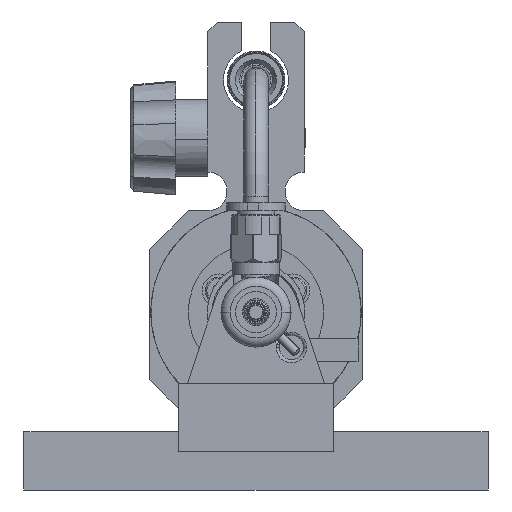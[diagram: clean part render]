
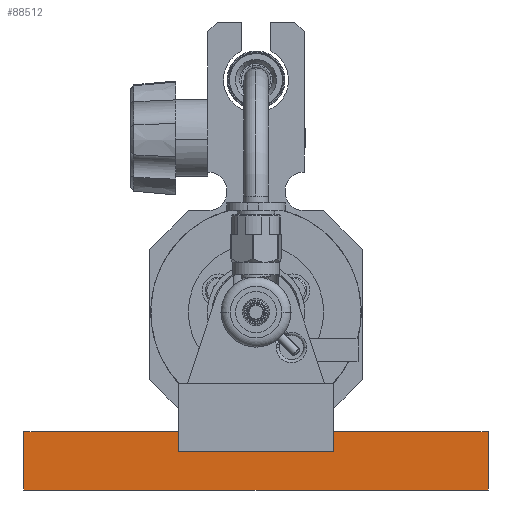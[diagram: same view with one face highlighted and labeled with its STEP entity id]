
A CAD part, front view. The second image highlights one B-rep face of the part: STEP entity #88512.
In plain terms, the highlighted planar face has unit normal (0, -1, 0).
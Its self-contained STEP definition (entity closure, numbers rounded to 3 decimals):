
#69130 = PLANE('',#69131);
#69131 = AXIS2_PLACEMENT_3D('',#69132,#69133,#69134);
#69132 = CARTESIAN_POINT('',(38.1,-17.393,-29.223));
#69133 = DIRECTION('',(0.,0.,-1.));
#69134 = DIRECTION('',(-1.,0.,0.));
#69379 = PLANE('',#69380);
#69380 = AXIS2_PLACEMENT_3D('',#69381,#69382,#69383);
#69381 = CARTESIAN_POINT('',(38.1,-17.393,-19.698));
#69382 = DIRECTION('',(0.,0.,-1.));
#69383 = DIRECTION('',(-1.,0.,0.));
#69615 = PLANE('',#69616);
#69616 = AXIS2_PLACEMENT_3D('',#69617,#69618,#69619);
#69617 = CARTESIAN_POINT('',(38.1,-17.393,-19.698));
#69618 = DIRECTION('',(0.,0.,-1.));
#69619 = DIRECTION('',(-1.,0.,0.));
#88233 = VERTEX_POINT('',#88234);
#88234 = CARTESIAN_POINT('',(38.1,-17.393,-29.223));
#88248 = PLANE('',#88249);
#88249 = AXIS2_PLACEMENT_3D('',#88250,#88251,#88252);
#88250 = CARTESIAN_POINT('',(38.1,-1.518,-29.223));
#88251 = DIRECTION('',(-1.,0.,0.));
#88252 = DIRECTION('',(0.,0.,1.));
#88260 = EDGE_CURVE('',#88233,#88261,#88263,.T.);
#88261 = VERTEX_POINT('',#88262);
#88262 = CARTESIAN_POINT('',(-38.1,-17.393,-29.223));
#88263 = SURFACE_CURVE('',#88264,(#88268,#88275),.PCURVE_S1.);
#88264 = LINE('',#88265,#88266);
#88265 = CARTESIAN_POINT('',(38.1,-17.393,-29.223));
#88266 = VECTOR('',#88267,1.);
#88267 = DIRECTION('',(-1.,0.,0.));
#88268 = PCURVE('',#69130,#88269);
#88269 = DEFINITIONAL_REPRESENTATION('',(#88270),#88274);
#88270 = LINE('',#88271,#88272);
#88271 = CARTESIAN_POINT('',(0.,0.));
#88272 = VECTOR('',#88273,1.);
#88273 = DIRECTION('',(1.,0.));
#88274 = ( GEOMETRIC_REPRESENTATION_CONTEXT(2) 
PARAMETRIC_REPRESENTATION_CONTEXT() REPRESENTATION_CONTEXT('2D SPACE',''
  ) );
#88275 = PCURVE('',#88276,#88281);
#88276 = PLANE('',#88277);
#88277 = AXIS2_PLACEMENT_3D('',#88278,#88279,#88280);
#88278 = CARTESIAN_POINT('',(38.1,-17.393,-29.223));
#88279 = DIRECTION('',(0.,1.,0.));
#88280 = DIRECTION('',(0.,0.,-1.));
#88281 = DEFINITIONAL_REPRESENTATION('',(#88282),#88286);
#88282 = LINE('',#88283,#88284);
#88283 = CARTESIAN_POINT('',(0.,0.));
#88284 = VECTOR('',#88285,1.);
#88285 = DIRECTION('',(0.,1.));
#88286 = ( GEOMETRIC_REPRESENTATION_CONTEXT(2) 
PARAMETRIC_REPRESENTATION_CONTEXT() REPRESENTATION_CONTEXT('2D SPACE',''
  ) );
#88304 = PLANE('',#88305);
#88305 = AXIS2_PLACEMENT_3D('',#88306,#88307,#88308);
#88306 = CARTESIAN_POINT('',(-38.1,-1.518,-29.223));
#88307 = DIRECTION('',(1.,0.,0.));
#88308 = DIRECTION('',(0.,0.,-1.));
#88468 = VERTEX_POINT('',#88469);
#88469 = CARTESIAN_POINT('',(-38.1,-17.393,-19.698));
#88492 = EDGE_CURVE('',#88261,#88468,#88493,.T.);
#88493 = SURFACE_CURVE('',#88494,(#88498,#88505),.PCURVE_S1.);
#88494 = LINE('',#88495,#88496);
#88495 = CARTESIAN_POINT('',(-38.1,-17.393,-29.223));
#88496 = VECTOR('',#88497,1.);
#88497 = DIRECTION('',(0.,0.,1.));
#88498 = PCURVE('',#88304,#88499);
#88499 = DEFINITIONAL_REPRESENTATION('',(#88500),#88504);
#88500 = LINE('',#88501,#88502);
#88501 = CARTESIAN_POINT('',(0.,-15.875));
#88502 = VECTOR('',#88503,1.);
#88503 = DIRECTION('',(-1.,0.));
#88504 = ( GEOMETRIC_REPRESENTATION_CONTEXT(2) 
PARAMETRIC_REPRESENTATION_CONTEXT() REPRESENTATION_CONTEXT('2D SPACE',''
  ) );
#88505 = PCURVE('',#88276,#88506);
#88506 = DEFINITIONAL_REPRESENTATION('',(#88507),#88511);
#88507 = LINE('',#88508,#88509);
#88508 = CARTESIAN_POINT('',(0.,76.2));
#88509 = VECTOR('',#88510,1.);
#88510 = DIRECTION('',(-1.,0.));
#88511 = ( GEOMETRIC_REPRESENTATION_CONTEXT(2) 
PARAMETRIC_REPRESENTATION_CONTEXT() REPRESENTATION_CONTEXT('2D SPACE',''
  ) );
#88512 = ADVANCED_FACE('',(#88513),#88276,.F.);
#88513 = FACE_BOUND('',#88514,.T.);
#88514 = EDGE_LOOP('',(#88515,#88540,#88568,#88589,#88590,#88591));
#88515 = ORIENTED_EDGE('',*,*,#88516,.T.);
#88516 = EDGE_CURVE('',#88517,#88519,#88521,.T.);
#88517 = VERTEX_POINT('',#88518);
#88518 = CARTESIAN_POINT('',(38.1,-17.393,-19.698));
#88519 = VERTEX_POINT('',#88520);
#88520 = CARTESIAN_POINT('',(12.7,-17.393,-19.698));
#88521 = SURFACE_CURVE('',#88522,(#88526,#88533),.PCURVE_S1.);
#88522 = LINE('',#88523,#88524);
#88523 = CARTESIAN_POINT('',(38.1,-17.393,-19.698));
#88524 = VECTOR('',#88525,1.);
#88525 = DIRECTION('',(-1.,0.,0.));
#88526 = PCURVE('',#88276,#88527);
#88527 = DEFINITIONAL_REPRESENTATION('',(#88528),#88532);
#88528 = LINE('',#88529,#88530);
#88529 = CARTESIAN_POINT('',(-9.525,0.));
#88530 = VECTOR('',#88531,1.);
#88531 = DIRECTION('',(0.,1.));
#88532 = ( GEOMETRIC_REPRESENTATION_CONTEXT(2) 
PARAMETRIC_REPRESENTATION_CONTEXT() REPRESENTATION_CONTEXT('2D SPACE',''
  ) );
#88533 = PCURVE('',#69615,#88534);
#88534 = DEFINITIONAL_REPRESENTATION('',(#88535),#88539);
#88535 = LINE('',#88536,#88537);
#88536 = CARTESIAN_POINT('',(0.,0.));
#88537 = VECTOR('',#88538,1.);
#88538 = DIRECTION('',(1.,0.));
#88539 = ( GEOMETRIC_REPRESENTATION_CONTEXT(2) 
PARAMETRIC_REPRESENTATION_CONTEXT() REPRESENTATION_CONTEXT('2D SPACE',''
  ) );
#88540 = ORIENTED_EDGE('',*,*,#88541,.T.);
#88541 = EDGE_CURVE('',#88519,#88542,#88544,.T.);
#88542 = VERTEX_POINT('',#88543);
#88543 = CARTESIAN_POINT('',(-12.7,-17.393,-19.698));
#88544 = SURFACE_CURVE('',#88545,(#88549,#88556),.PCURVE_S1.);
#88545 = LINE('',#88546,#88547);
#88546 = CARTESIAN_POINT('',(-12.7,-17.393,-19.698));
#88547 = VECTOR('',#88548,1.);
#88548 = DIRECTION('',(-1.,0.,0.));
#88549 = PCURVE('',#88276,#88550);
#88550 = DEFINITIONAL_REPRESENTATION('',(#88551),#88555);
#88551 = LINE('',#88552,#88553);
#88552 = CARTESIAN_POINT('',(-9.525,50.8));
#88553 = VECTOR('',#88554,1.);
#88554 = DIRECTION('',(0.,1.));
#88555 = ( GEOMETRIC_REPRESENTATION_CONTEXT(2) 
PARAMETRIC_REPRESENTATION_CONTEXT() REPRESENTATION_CONTEXT('2D SPACE',''
  ) );
#88556 = PCURVE('',#88557,#88562);
#88557 = PLANE('',#88558);
#88558 = AXIS2_PLACEMENT_3D('',#88559,#88560,#88561);
#88559 = CARTESIAN_POINT('',(-12.7,-1.48,-19.698));
#88560 = DIRECTION('',(0.,0.,1.));
#88561 = DIRECTION('',(0.,1.,0.));
#88562 = DEFINITIONAL_REPRESENTATION('',(#88563),#88567);
#88563 = LINE('',#88564,#88565);
#88564 = CARTESIAN_POINT('',(-15.913,0.));
#88565 = VECTOR('',#88566,1.);
#88566 = DIRECTION('',(0.,1.));
#88567 = ( GEOMETRIC_REPRESENTATION_CONTEXT(2) 
PARAMETRIC_REPRESENTATION_CONTEXT() REPRESENTATION_CONTEXT('2D SPACE',''
  ) );
#88568 = ORIENTED_EDGE('',*,*,#88569,.T.);
#88569 = EDGE_CURVE('',#88542,#88468,#88570,.T.);
#88570 = SURFACE_CURVE('',#88571,(#88575,#88582),.PCURVE_S1.);
#88571 = LINE('',#88572,#88573);
#88572 = CARTESIAN_POINT('',(38.1,-17.393,-19.698));
#88573 = VECTOR('',#88574,1.);
#88574 = DIRECTION('',(-1.,0.,0.));
#88575 = PCURVE('',#88276,#88576);
#88576 = DEFINITIONAL_REPRESENTATION('',(#88577),#88581);
#88577 = LINE('',#88578,#88579);
#88578 = CARTESIAN_POINT('',(-9.525,0.));
#88579 = VECTOR('',#88580,1.);
#88580 = DIRECTION('',(0.,1.));
#88581 = ( GEOMETRIC_REPRESENTATION_CONTEXT(2) 
PARAMETRIC_REPRESENTATION_CONTEXT() REPRESENTATION_CONTEXT('2D SPACE',''
  ) );
#88582 = PCURVE('',#69379,#88583);
#88583 = DEFINITIONAL_REPRESENTATION('',(#88584),#88588);
#88584 = LINE('',#88585,#88586);
#88585 = CARTESIAN_POINT('',(0.,0.));
#88586 = VECTOR('',#88587,1.);
#88587 = DIRECTION('',(1.,0.));
#88588 = ( GEOMETRIC_REPRESENTATION_CONTEXT(2) 
PARAMETRIC_REPRESENTATION_CONTEXT() REPRESENTATION_CONTEXT('2D SPACE',''
  ) );
#88589 = ORIENTED_EDGE('',*,*,#88492,.F.);
#88590 = ORIENTED_EDGE('',*,*,#88260,.F.);
#88591 = ORIENTED_EDGE('',*,*,#88592,.T.);
#88592 = EDGE_CURVE('',#88233,#88517,#88593,.T.);
#88593 = SURFACE_CURVE('',#88594,(#88598,#88605),.PCURVE_S1.);
#88594 = LINE('',#88595,#88596);
#88595 = CARTESIAN_POINT('',(38.1,-17.393,-29.223));
#88596 = VECTOR('',#88597,1.);
#88597 = DIRECTION('',(0.,0.,1.));
#88598 = PCURVE('',#88276,#88599);
#88599 = DEFINITIONAL_REPRESENTATION('',(#88600),#88604);
#88600 = LINE('',#88601,#88602);
#88601 = CARTESIAN_POINT('',(0.,0.));
#88602 = VECTOR('',#88603,1.);
#88603 = DIRECTION('',(-1.,0.));
#88604 = ( GEOMETRIC_REPRESENTATION_CONTEXT(2) 
PARAMETRIC_REPRESENTATION_CONTEXT() REPRESENTATION_CONTEXT('2D SPACE',''
  ) );
#88605 = PCURVE('',#88248,#88606);
#88606 = DEFINITIONAL_REPRESENTATION('',(#88607),#88611);
#88607 = LINE('',#88608,#88609);
#88608 = CARTESIAN_POINT('',(0.,-15.875));
#88609 = VECTOR('',#88610,1.);
#88610 = DIRECTION('',(1.,0.));
#88611 = ( GEOMETRIC_REPRESENTATION_CONTEXT(2) 
PARAMETRIC_REPRESENTATION_CONTEXT() REPRESENTATION_CONTEXT('2D SPACE',''
  ) );
